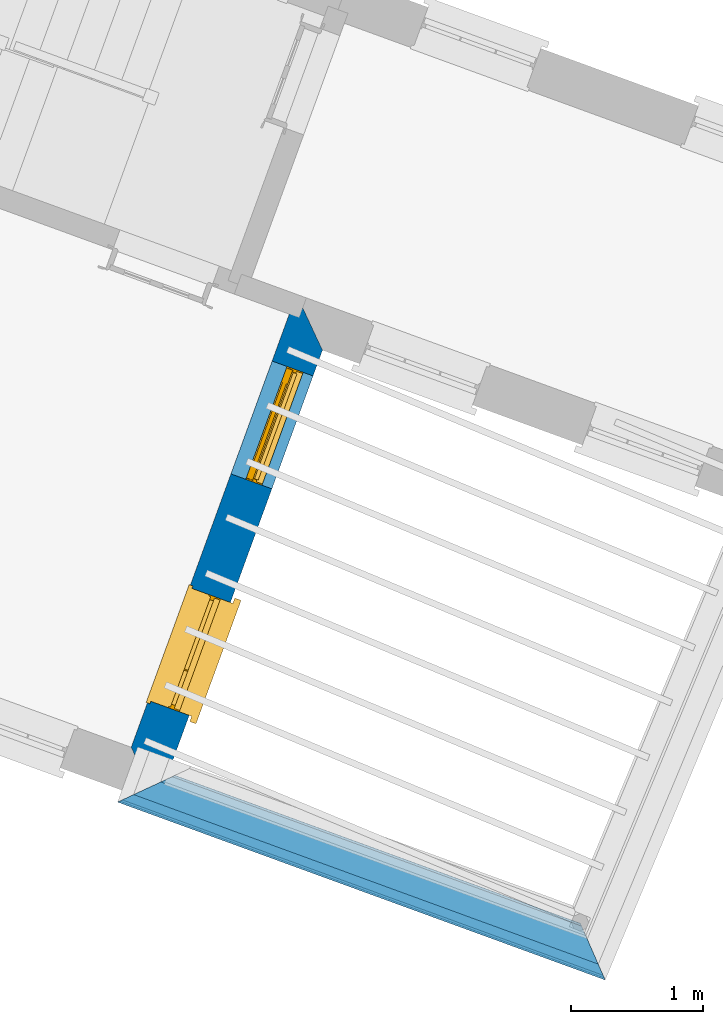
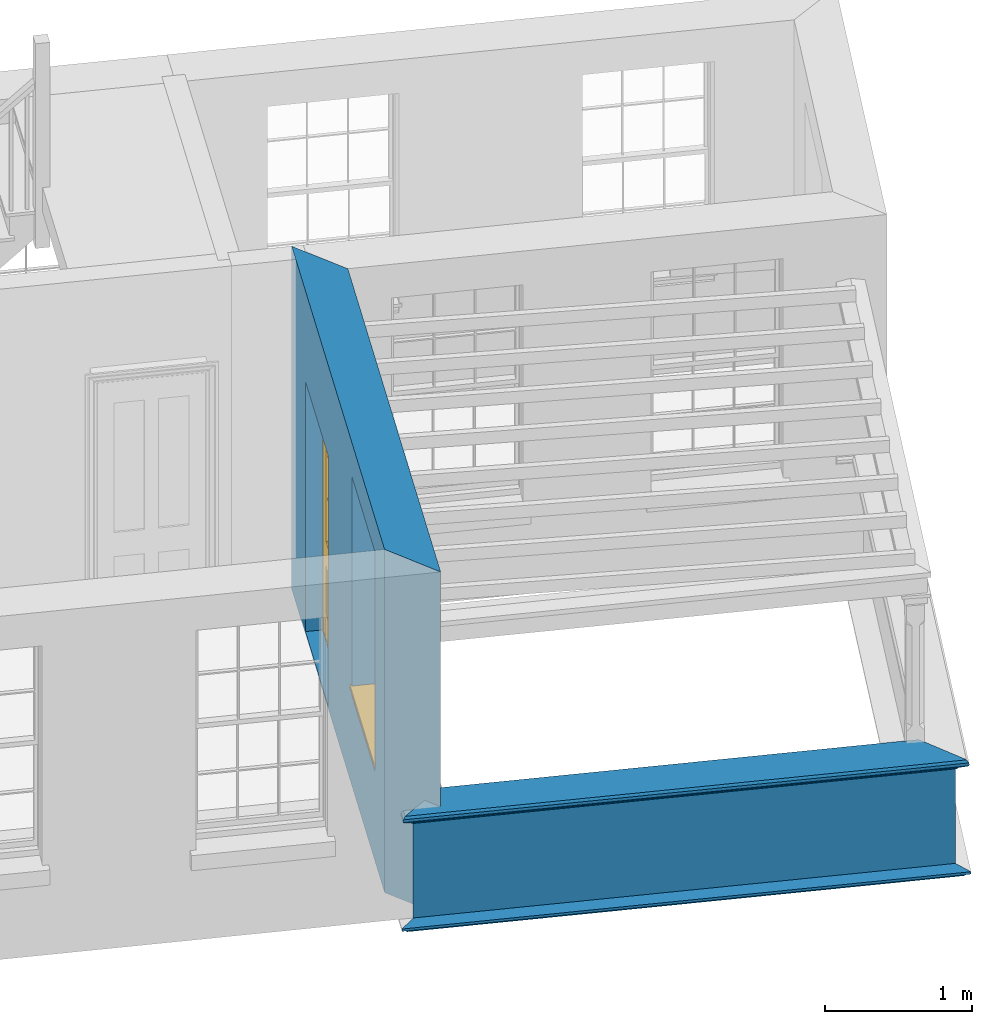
# One storey, part 2 of 7: 4 walls, 1 door, 1 window, 2 openings.
"""IFC4 building model written with IfcOpenShell, lengths in metres."""

import ifcopenshell
import ifcopenshell.guid

model = None  # the IFC model being written
_history = None  # IfcOwnerHistory: only IFC2X3 demands one
_inside = {}  # id of a spatial element -> (the spatial element, [elements in it])
_under = {}  # id of a project, library or spatial element -> (it, [spatial elements below it])
_declared = {}  # id of a project -> (the project, [libraries it declares])
_typed = {}  # id of a type object -> (the type object, [elements of that type])
_made_of = {}  # id of a material, layer set ... -> (it, [elements and type objects made of it])


def new_model(schema):
    """Start an empty IFC model of exactly this schema.

    Asked for "IFC4X3", IfcOpenShell would pick the latest addendum, in which some entities
    have other attributes; the version numbers below select the first issue.
    IFC2X3 requires an IfcOwnerHistory on every rooted entity: one is made here for all.
    """
    global model, _history
    if schema == "IFC4X3":
        model = ifcopenshell.file(schema_version=(4, 3, 0, 0))
    else:
        model = ifcopenshell.file(schema=schema)
    _inside.clear()
    _under.clear()
    _declared.clear()
    _typed.clear()
    _made_of.clear()
    _history = None
    if model.schema == "IFC2X3":
        org = make("IfcOrganization", Name="unknown")
        user = make(
            "IfcPersonAndOrganization",
            ThePerson=make("IfcPerson", FamilyName="unknown"),
            TheOrganization=org,
        )
        app = make(
            "IfcApplication",
            ApplicationDeveloper=org,
            Version="unknown",
            ApplicationFullName="unknown",
            ApplicationIdentifier="unknown",
        )
        _history = make(
            "IfcOwnerHistory",
            OwningUser=user,
            OwningApplication=app,
            ChangeAction="ADDED",
            CreationDate=0,
        )
    return model


def make(cls, **values):
    """One entity of the class cls with the attributes given. An attribute that is None is left unset."""
    return model.create_entity(
        cls, **{name: value for name, value in values.items() if value is not None}
    )


def rooted(cls, **values):
    """An entity with a GlobalId (a new one), such as an element, a storey or a relation."""
    return make(cls, GlobalId=ifcopenshell.guid.new(), OwnerHistory=_history, **values)


def si_unit(unit_type, name, prefix=None):
    """IfcSIUnit, for example si_unit("LENGTHUNIT", "METRE", prefix="MILLI")."""
    return make("IfcSIUnit", UnitType=unit_type, Prefix=prefix, Name=name)


def assignment(units):
    """IfcUnitAssignment: the units of a project."""
    return None if units is None else make("IfcUnitAssignment", Units=units)


def point(xyz):
    """IfcCartesianPoint."""
    return None if xyz is None else make("IfcCartesianPoint", Coordinates=xyz)


def direction(xyz):
    """IfcDirection."""
    return None if xyz is None else make("IfcDirection", DirectionRatios=xyz)


def frame(location, z_axis=None, x_axis=None):
    """IfcAxis2Placement3D, a coordinate frame: its origin and axes. An axis left out is left unset."""
    return make(
        "IfcAxis2Placement3D",
        Location=point(location),
        Axis=direction(z_axis),
        RefDirection=direction(x_axis),
    )


def origin():
    """The frame at (0, 0, 0) with its axes left unset."""
    return frame((0.0, 0.0, 0.0))


def origin_with_axes():
    """The frame at (0, 0, 0) with the z axis (0, 0, 1) and the x axis (1, 0, 0) written out."""
    return frame((0.0, 0.0, 0.0), z_axis=(0.0, 0.0, 1.0), x_axis=(1.0, 0.0, 0.0))


def place(relative_to, where):
    """IfcLocalPlacement: puts the frame where relative to a parent placement (None: the world)."""
    return make(
        "IfcLocalPlacement", PlacementRelTo=relative_to, RelativePlacement=where
    )


def context(
    kind, dimensions, precision=None, world=None, true_north=None, identifier=None
):
    """IfcGeometricRepresentationContext, for example the 3D "Model" context."""
    return make(
        "IfcGeometricRepresentationContext",
        ContextIdentifier=identifier,
        ContextType=kind,
        CoordinateSpaceDimension=dimensions,
        Precision=precision,
        WorldCoordinateSystem=world,
        TrueNorth=true_north,
    )


def subcontext(parent, identifier, kind, view, scale=None):
    """IfcGeometricRepresentationSubContext, for example "Body" below "Model"."""
    return make(
        "IfcGeometricRepresentationSubContext",
        ContextIdentifier=identifier,
        ContextType=kind,
        ParentContext=parent,
        TargetScale=scale,
        TargetView=view,
    )


def project(units=None, contexts=None):
    """IfcProject with its units and contexts."""
    return rooted(
        "IfcProject",
        Name="project",
        RepresentationContexts=contexts,
        UnitsInContext=assignment(units),
    )


def spatial(cls, under=None, at=None, **own):
    """A site, building, storey or space (cls), placed at a placement, below another one or the project."""
    s = rooted(cls, ObjectPlacement=at, **own)
    if under is not None:
        _under.setdefault(under.id(), (under, []))[1].append(s)
    return s


def polyline(points):
    """IfcPolyline through the points."""
    return make("IfcPolyline", Points=[point(p) for p in points])


def outline(outer, holes=None, kind="AREA"):
    """IfcArbitraryClosedProfileDef: a profile drawn as a closed curve; with holes, ...WithVoids."""
    if holes is None:
        return make("IfcArbitraryClosedProfileDef", ProfileType=kind, OuterCurve=outer)
    return make(
        "IfcArbitraryProfileDefWithVoids",
        ProfileType=kind,
        OuterCurve=outer,
        InnerCurves=holes,
    )


def extrude(swept, where, along, depth):
    """IfcExtrudedAreaSolid: the profile swept, set in the frame where, extruded along a direction by depth."""
    return make(
        "IfcExtrudedAreaSolid",
        SweptArea=swept,
        Position=where,
        ExtrudedDirection=direction(along),
        Depth=depth,
    )


def clip(a, b, op="DIFFERENCE"):
    """IfcBooleanClippingResult: the solid a cut by the half space b."""
    return make(
        "IfcBooleanClippingResult", Operator=op, FirstOperand=a, SecondOperand=b
    )


def halfspace(plane, agree):
    """IfcHalfSpaceSolid: all space on one side of the plane z = 0 of the frame plane."""
    return make(
        "IfcHalfSpaceSolid",
        BaseSurface=make("IfcPlane", Position=plane),
        AgreementFlag=agree,
    )


def faces_of(points, faces, orient=None, outer=None):
    """IfcFace entities. A face is a list of loops; a loop is a list of indices into points, from 0.

    orient and outer hold one flag for each loop. By default every Orientation is true, the
    first loop of a face is its IfcFaceOuterBound and the others are IfcFaceBound.
    """
    made = []
    for i, loops in enumerate(faces):
        bounds = []
        for j, loop in enumerate(loops):
            is_outer = j == 0 if outer is None else outer[i][j]
            bounds.append(
                make(
                    "IfcFaceOuterBound" if is_outer else "IfcFaceBound",
                    Bound=make("IfcPolyLoop", Polygon=[points[k] for k in loop]),
                    Orientation=True if orient is None else orient[i][j],
                )
            )
        made.append(make("IfcFace", Bounds=bounds))
    return made


def faceted_brep(points, faces, orient=None, outer=None, voids=None):
    """IfcFacetedBrep: a solid bounded by flat faces; with voids (closed shells), ...WithVoids."""
    shared = [point(p) for p in points]
    hull = make("IfcClosedShell", CfsFaces=faces_of(shared, faces, orient, outer))
    if voids is None:
        return make("IfcFacetedBrep", Outer=hull)
    return make(
        "IfcFacetedBrepWithVoids",
        Outer=hull,
        Voids=[
            make(cls, CfsFaces=faces_of(shared, fs, o, b)) for cls, fs, o, b in voids
        ],
    )


def shape(context_of_items, identifier, shape_type, items):
    """IfcShapeRepresentation: the items that make up one representation, for example the "Body"."""
    return make(
        "IfcShapeRepresentation",
        ContextOfItems=context_of_items,
        RepresentationIdentifier=identifier,
        RepresentationType=shape_type,
        Items=items,
    )


def source(mapping_origin, context_of_items, identifier, shape_type, items):
    """IfcRepresentationMap: a shape defined once, which mapped items show again and again."""
    return make(
        "IfcRepresentationMap",
        MappingOrigin=mapping_origin,
        MappedRepresentation=shape(context_of_items, identifier, shape_type, items),
    )


def transform(
    local_origin,
    x_axis=None,
    y_axis=None,
    z_axis=None,
    scale=None,
    scale2=None,
    scale3=None,
    uniform=True,
):
    """IfcCartesianTransformationOperator3D, or its non-uniform kind. x_axis, y_axis, z_axis: its Axis1, 2, 3."""
    if uniform:
        return make(
            "IfcCartesianTransformationOperator3D",
            Axis1=direction(x_axis),
            Axis2=direction(y_axis),
            LocalOrigin=point(local_origin),
            Scale=scale,
            Axis3=direction(z_axis),
        )
    return make(
        "IfcCartesianTransformationOperator3DnonUniform",
        Axis1=direction(x_axis),
        Axis2=direction(y_axis),
        LocalOrigin=point(local_origin),
        Scale=scale,
        Axis3=direction(z_axis),
        Scale2=scale2,
        Scale3=scale3,
    )


def mapped(mapping_source, mapping_target):
    """IfcMappedItem: shows the shape of a source again, moved by a transform."""
    return make(
        "IfcMappedItem", MappingSource=mapping_source, MappingTarget=mapping_target
    )


def material(Name=None, Category=None):
    """IfcMaterial."""
    return make("IfcMaterial", Name=Name, Category=Category)


def layer(
    of_material, thickness, ventilated=None, Name=None, Category=None, Priority=None
):
    """IfcMaterialLayer: one layer of a wall or slab, of a material (None: an air gap)."""
    return make(
        "IfcMaterialLayer",
        Material=of_material,
        LayerThickness=thickness,
        IsVentilated=ventilated,
        Name=Name,
        Category=Category,
        Priority=Priority,
    )


def layer_set(layers, Name=None):
    """IfcMaterialLayerSet."""
    return make("IfcMaterialLayerSet", MaterialLayers=layers, LayerSetName=Name)


def layer_usage(for_layer_set, set_direction, sense, offset, extent=None):
    """IfcMaterialLayerSetUsage: how a layer set lies in its element."""
    return make(
        "IfcMaterialLayerSetUsage",
        ForLayerSet=for_layer_set,
        LayerSetDirection=set_direction,
        DirectionSense=sense,
        OffsetFromReferenceLine=offset,
        ReferenceExtent=extent,
    )


def material_profile(
    of_material, cross_section, Name=None, Category=None, Priority=None
):
    """IfcMaterialProfile: a cross section and its material."""
    return make(
        "IfcMaterialProfile",
        Name=Name,
        Material=of_material,
        Profile=cross_section,
        Priority=Priority,
        Category=Category,
    )


def profile_set(profiles, Name=None, composite=None):
    """IfcMaterialProfileSet."""
    return make(
        "IfcMaterialProfileSet",
        Name=Name,
        MaterialProfiles=profiles,
        CompositeProfile=composite,
    )


def profile_usage(for_profile_set, cardinal=None, extent=None):
    """IfcMaterialProfileSetUsage: how a profile set lies along its element."""
    return make(
        "IfcMaterialProfileSetUsage",
        ForProfileSet=for_profile_set,
        CardinalPoint=cardinal,
        ReferenceExtent=extent,
    )


def made_of(thing, what):
    """Note that an element or type object is made of a material, layer set ...; save() writes the relation."""
    if what is not None:
        _made_of.setdefault(what.id(), (what, []))[1].append(thing)
    return thing


def type_object(cls, material=None, **own):
    """A type object (cls), such as IfcWallType, which elements share."""
    return made_of(rooted(cls, **own), material)


def type_shapes(of_type, sources):
    """Give a type object the sources (RepresentationMaps) that its elements show as mapped items."""
    of_type.RepresentationMaps = sources


def element(
    cls,
    number,
    at=None,
    inside=None,
    cuts=None,
    type_object=None,
    material=None,
    context=None,
    identifier="Body",
    shape_type=None,
    held_by="IfcProductDefinitionShape",
    body=None,
    shapes=None,
    **own,
):
    """One element of the class cls, such as IfcWall. Its Tag is "e" and its number.

    at: its placement. inside: the storey or other place that contains it. cuts: it is an
    opening in that element (IfcRelVoidsElement). A single representation is given by context,
    identifier, shape_type and body (its items); several are given by shapes. held_by: the class
    of the entity that holds the representations. save() writes the other relations.
    """
    e = rooted(cls, Tag="e%d" % number, ObjectPlacement=at, **own)
    if body is not None:
        shapes = [shape(context, identifier, shape_type, body)]
    if shapes is not None:
        e.Representation = make(held_by, Representations=shapes)
    if inside is not None:
        _inside.setdefault(inside.id(), (inside, []))[1].append(e)
    if cuts is not None:
        rooted(
            "IfcRelVoidsElement", RelatingBuildingElement=cuts, RelatedOpeningElement=e
        )
    if type_object is not None:
        _typed.setdefault(type_object.id(), (type_object, []))[1].append(e)
    return made_of(e, material)


def fill(opening, filler):
    """IfcRelFillsElement: the door or window that sits in an opening."""
    return rooted(
        "IfcRelFillsElement",
        RelatingOpeningElement=opening,
        RelatedBuildingElement=filler,
    )


def aggregate(whole, parts):
    """IfcRelAggregates: a whole, such as a stair, and the parts it consists of."""
    return rooted("IfcRelAggregates", RelatingObject=whole, RelatedObjects=parts)


def save(model, path):
    """Write the relations noted so far, then the file.

    IfcRelAggregates (storeys below a building ...), IfcRelContainedInSpatialStructure (elements
    in a storey), IfcRelDefinesByType, IfcRelAssociatesMaterial and IfcRelDeclares: one each for
    every whole, place, type object, material and project.
    """
    for whole, parts in _under.values():
        aggregate(whole, parts)
    for where, things in _inside.values():
        rooted(
            "IfcRelContainedInSpatialStructure",
            RelatedElements=things,
            RelatingStructure=where,
        )
    for kind, things in _typed.values():
        rooted("IfcRelDefinesByType", RelatedObjects=things, RelatingType=kind)
    for what, things in _made_of.values():
        rooted("IfcRelAssociatesMaterial", RelatedObjects=things, RelatingMaterial=what)
    for by, libraries in _declared.values():
        rooted("IfcRelDeclares", RelatingContext=by, RelatedDefinitions=libraries)
    model.write(path)


model = new_model("IFC4")

# Units and contexts
model_context = context("Model", 3, world=origin_with_axes())
body_context = subcontext(model_context, "Body", "Model", "MODEL_VIEW")
ifc_project = project(units=[si_unit("PLANEANGLEUNIT", "RADIAN"), si_unit("MASSUNIT", "GRAM", prefix="KILO"), si_unit("FORCEUNIT", "NEWTON", prefix="KILO"), si_unit("LENGTHUNIT", "METRE"), si_unit("AREAUNIT", "SQUARE_METRE"), si_unit("VOLUMEUNIT", "CUBIC_METRE")], contexts=[model_context, model_context])

# Sites, building, storey
site_1_placement = place(None, origin_with_axes())
site_1 = spatial("IfcSite", under=ifc_project, at=site_1_placement, Name="Tamar")
site_2_placement = place(site_1_placement, origin_with_axes())
site_2 = spatial("IfcSite", under=site_1, at=site_2_placement, Name="Site plot-13", CompositionType="ELEMENT")
building_placement = place(None, origin_with_axes())
building = spatial("IfcBuilding", under=site_2, at=building_placement, Name="Building plot-13", CompositionType="ELEMENT")
storey_placement = place(None, frame((0.0, 0.0, 29.0), z_axis=(0.0, 0.0, 1.0), x_axis=(1.0, 0.0, 0.0)))
storey = spatial("IfcBuildingStorey", under=building, at=storey_placement, Name="plot-13 1", CompositionType="ELEMENT", Elevation=29.0)

# Wall, openings, door, window
ifc_material = material(Name="Masonry")
ifc_layer = layer(ifc_material, 0.33, ventilated=False)
ifc_layer_set = layer_set([ifc_layer], Name="exterior_0.08_0.25")
ifc_layer_usage = layer_usage(ifc_layer_set, "AXIS2", "POSITIVE", -0.25)
wall_type_1 = type_object("IfcWallType", Name="exterior_0.08_0.25", PredefinedType="SOLIDWALL", material=ifc_layer_set)
wall_1_placement = place(storey_placement, frame((244.988438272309, 297.311674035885, 0.0), z_axis=(0.0, 0.0, 1.0), x_axis=(0.342734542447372, 0.939432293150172, 0.0)))
wall_1 = element("IfcWall", 1, at=wall_1_placement, inside=storey, type_object=wall_type_1, material=ifc_layer_usage, Name="exterior", context=body_context, shape_type="SweptSolid", body=[
    extrude(outline(polyline([(0.0800000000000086, 0.0799999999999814), (-0.249999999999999, -0.249999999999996), (3.40149980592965, -0.249999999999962), (3.73149980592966, 0.0800000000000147), (0.0800000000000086, 0.0799999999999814)])), origin_with_axes(), (0.0, 0.0, 1.0), 2.85),
])
opening_1_placement = place(wall_1_placement, frame((0.457874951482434, 0.0, 0.75)))
opening_1 = element("IfcOpeningElement", 2, at=opening_1_placement, cuts=wall_1, Name="My Opening", ObjectType="Opening", context=body_context, shape_type="SweptSolid", body=[
    extrude(outline(polyline([(0.0, -0.269999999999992), (0.909999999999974, -0.269999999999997), (0.909999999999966, 1.09999999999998), (-7.7715611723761e-15, 1.09999999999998), (0.0, -0.269999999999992)])), origin_with_axes(), (0.0, 0.0, 1.0), 1.82),
])
opening_2_placement = place(wall_1_placement, frame((2.28362485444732, 0.0, 0.0199999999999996)))
opening_2 = element("IfcOpeningElement", 3, at=opening_2_placement, cuts=wall_1, Name="My Opening", ObjectType="Opening", context=body_context, shape_type="SweptSolid", body=[
    extrude(outline(polyline([(0.0, -0.269999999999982), (0.909999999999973, -0.269999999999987), (0.909999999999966, 1.09999999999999), (-7.99360577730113e-15, 1.09999999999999), (0.0, -0.269999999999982)])), origin_with_axes(), (0.0, 0.0, 1.0), 2.08),
])
door_type = type_object("IfcDoorType", Name="door_panelled", OperationType="SINGLE_SWING_LEFT", PredefinedType="NOTDEFINED")
shared_shape_1 = source(origin(), body_context, "Body", "Brep", [
    faceted_brep([(0.545, 0.195, 0.265), (0.745, 0.195, 0.265), (0.745, 0.2, 0.265), (0.545, 0.2, 0.265), (0.745, 0.2, 0.58), (0.545, 0.2, 0.58), (0.545, 0.195, 0.58), (0.515, 0.19, 0.235), (0.775, 0.19, 0.235), (0.745, 0.195, 0.58), (0.515, 0.19, 0.61), (0.515, 0.185, 0.235), (0.775, 0.185, 0.235), (0.775, 0.19, 0.61), (0.515, 0.185, 0.61), (0.785, 0.185, 0.225), (0.505, 0.185, 0.225), (0.775, 0.185, 0.61), (0.505, 0.185, 0.62), (0.785, 0.185, 0.62), (0.505, 0.18, 0.225), (0.785, 0.18, 0.225), (0.505, 0.18, 0.62), (0.785, 0.18, 0.62), (0.883, 0.18, 0.075), (0.898, 0.18, 0.075), (0.405, 0.18, 0.62), (0.405, 0.18, 0.225), (0.027, 0.18, 0.075), (0.785, 0.18, 0.82), (0.125, 0.18, 0.82), (0.405, 0.185, 0.62), (0.405, 0.185, 0.225), (0.898, 0.18, 2.068), (0.027, 0.17, 0.075), (0.883, 0.17, 0.075), (0.125, 0.18, 0.225), (0.012, 0.18, 0.075), (0.785, 0.19, 0.82), (0.125, 0.19, 0.82), (0.125, 0.18, 0.62), (0.125, 0.185, 0.62), (0.395, 0.185, 0.61), (0.395, 0.185, 0.235), (0.125, 0.185, 0.225), (0.785, 0.18, 1.895), (0.027, 0.14, 0.045), (0.883, 0.14, 0.045), (0.558333, 0.19, 0.83), (0.351667, 0.19, 0.83), (0.125, 0.18, 1.895), (0.125, 0.19, 1.895), (0.785, 0.19, 1.895), (0.012, 0.18, 2.068), (0.135, 0.185, 0.61), (0.395, 0.19, 0.61), (0.395, 0.19, 0.235), (0.135, 0.185, 0.235), (0.027, 0.14, 0.027), (0.883, 0.14, 0.027), (0.568333, 0.19, 0.83), (0.558333, 0.22, 0.83), (0.351667, 0.22, 0.83), (0.341667, 0.19, 0.83), (0.135, 0.19, 1.185), (0.135, 0.19, 1.53), (0.775, 0.19, 1.53), (0.775, 0.19, 1.185), (0.135, 0.19, 0.61), (0.365, 0.195, 0.58), (0.365, 0.195, 0.265), (0.135, 0.19, 0.235), (0.568333, 0.19, 1.175), (0.558333, 0.19, 1.175), (0.775, 0.19, 0.83), (0.558333, 0.22, 1.175), (0.785, 0.22, 0.82), (0.125, 0.22, 0.82), (0.351667, 0.22, 1.175), (0.351667, 0.19, 1.175), (0.341667, 0.19, 1.175), (0.135, 0.19, 0.83), (0.135, 0.19, 1.175), (0.135, 0.22, 1.185), (0.135, 0.22, 1.53), (0.135, 0.19, 1.54), (0.351667, 0.19, 1.885), (0.558333, 0.19, 1.885), (0.775, 0.22, 1.53), (0.775, 0.22, 1.185), (0.775, 0.19, 1.175), (0.775, 0.19, 1.54), (0.165, 0.195, 0.58), (0.365, 0.2, 0.58), (0.365, 0.2, 0.265), (0.165, 0.195, 0.265), (0.568333, 0.22, 0.83), (0.568333, 0.22, 1.175), (0.568333, 0.19, 1.185), (0.558333, 0.19, 1.185), (0.775, 0.22, 0.83), (0.785, 0.23, 0.82), (0.125, 0.23, 0.82), (0.341667, 0.22, 0.83), (0.341667, 0.22, 1.175), (0.351667, 0.19, 1.185), (0.341667, 0.19, 1.185), (0.135, 0.22, 0.83), (0.341667, 0.22, 1.185), (0.125, 0.22, 1.895), (0.341667, 0.22, 1.53), (0.341667, 0.19, 1.53), (0.135, 0.19, 1.885), (0.341667, 0.19, 1.54), (0.341667, 0.19, 1.885), (0.558333, 0.22, 1.885), (0.351667, 0.22, 1.885), (0.568333, 0.19, 1.885), (0.785, 0.22, 1.895), (0.568333, 0.22, 1.185), (0.568333, 0.19, 1.53), (0.568333, 0.22, 1.53), (0.568333, 0.19, 1.54), (0.775, 0.19, 1.885), (0.165, 0.2, 0.58), (0.165, 0.2, 0.265), (0.775, 0.22, 1.175), (0.558333, 0.19, 1.53), (0.351667, 0.22, 1.185), (0.558333, 0.22, 1.185), (0.505, 0.23, 0.62), (0.405, 0.23, 0.62), (0.125, 0.23, 1.895), (0.785, 0.23, 1.895), (0.351667, 0.19, 1.53), (0.135, 0.22, 1.175), (0.135, 0.22, 1.54), (0.341667, 0.22, 1.54), (0.135, 0.22, 1.885), (0.351667, 0.19, 1.54), (0.558333, 0.22, 1.54), (0.558333, 0.19, 1.54), (0.351667, 0.22, 1.54), (0.775, 0.22, 1.54), (0.568333, 0.22, 1.54), (0.775, 0.22, 1.885), (0.558333, 0.22, 1.53), (0.405, 0.23, 0.225), (0.505, 0.23, 0.225), (0.125, 0.23, 0.62), (0.785, 0.23, 0.62), (0.012, 0.23, 2.068), (0.898, 0.23, 2.068), (0.351667, 0.22, 1.53), (0.341667, 0.22, 1.885), (0.568333, 0.22, 1.885), (0.405, 0.225, 0.225), (0.405, 0.225, 0.62), (0.505, 0.225, 0.62), (0.505, 0.225, 0.225), (0.898, 0.23, 0.027), (0.012, 0.23, 0.027), (0.125, 0.225, 0.62), (0.785, 0.225, 0.62), (0.395, 0.225, 0.235), (0.395, 0.225, 0.61), (0.125, 0.23, 0.225), (0.125, 0.225, 0.225), (0.515, 0.225, 0.61), (0.515, 0.225, 0.235), (0.785, 0.23, 0.225), (0.785, 0.225, 0.225), (0.135, 0.225, 0.61), (0.775, 0.225, 0.61), (0.135, 0.225, 0.235), (0.395, 0.22, 0.235), (0.395, 0.22, 0.61), (0.515, 0.22, 0.61), (0.515, 0.22, 0.235), (0.775, 0.225, 0.235), (0.135, 0.22, 0.61), (0.775, 0.22, 0.61), (0.135, 0.22, 0.235), (0.365, 0.215, 0.265), (0.365, 0.215, 0.58), (0.545, 0.215, 0.58), (0.545, 0.215, 0.265), (0.775, 0.22, 0.235), (0.165, 0.215, 0.58), (0.745, 0.215, 0.58), (0.165, 0.215, 0.265), (0.365, 0.21, 0.58), (0.365, 0.21, 0.265), (0.545, 0.21, 0.58), (0.545, 0.21, 0.265), (0.745, 0.215, 0.265), (0.165, 0.21, 0.58), (0.745, 0.21, 0.58), (0.165, 0.21, 0.265), (0.745, 0.21, 0.265), (0.885, 0.178, 0.025), (0.025, 0.178, 0.025), (0.025, 0.15, 0.025), (0.885, 0.15, 0.025), (0.9, 0.23, 0.025), (0.01, 0.23, 0.025), (0.9, 0.178, 0.025), (0.91, 0.23, 0.0), (0.0, 0.23, 0.0), (0.01, 0.178, 0.025), (0.9, 0.178, 2.07), (0.9, 0.23, 2.07), (0.885, 0.178, 2.055), (0.91, 0.23, 2.08), (0.01, 0.23, 2.07), (0.0, 0.23, 2.08), (0.01, 0.178, 2.07), (0.025, 0.178, 2.055), (0.0, 0.1, 2.08), (0.91, 0.1, 2.08), (0.01, 0.1, 2.07), (0.9, 0.1, 2.07), (0.01, 0.15, 2.07), (0.9, 0.15, 2.07), (0.0, 0.1, 0.0), (0.91, 0.1, 0.0), (0.01, 0.1, 0.025), (0.9, 0.1, 0.025), (0.01, 0.15, 0.025), (0.025, 0.15, 2.055), (0.9, 0.15, 0.025), (0.885, 0.15, 2.055), (0.898, 0.18, 0.027), (0.012, 0.18, 0.027), (0.883, 0.18, 0.027), (0.027, 0.18, 0.027)], [[[0, 1, 2, 3]], [[2, 4, 5, 3]], [[0, 3, 5, 6]], [[1, 0, 7, 8]], [[9, 4, 2, 1]], [[9, 6, 5, 4]], [[0, 6, 10, 7]], [[8, 7, 11, 12]], [[8, 13, 9, 1]], [[13, 10, 6, 9]], [[7, 10, 14, 11]], [[15, 12, 11, 16]], [[12, 17, 13, 8]], [[17, 14, 10, 13]], [[18, 16, 11, 14]], [[15, 19, 17, 12]], [[15, 16, 20, 21]], [[14, 17, 19, 18]], [[16, 18, 22, 20]], [[21, 23, 19, 15]], [[24, 25, 21, 20]], [[23, 22, 18, 19]], [[20, 22, 26, 27]], [[23, 21, 25]], [[28, 24, 20, 27]], [[22, 23, 29]], [[29, 30, 26, 22]], [[27, 26, 31, 32]], [[23, 25, 33, 29]], [[34, 35, 24, 28]], [[28, 27, 36, 37]], [[38, 39, 30, 29]], [[26, 30, 40]], [[26, 40, 41, 31]], [[42, 43, 32, 31]], [[32, 44, 36, 27]], [[33, 45, 29]], [[46, 47, 35, 34]], [[36, 40, 37]], [[39, 38, 48, 49]], [[50, 30, 39, 51]], [[29, 45, 52, 38]], [[53, 37, 40, 30]], [[44, 41, 40, 36]], [[31, 41, 54, 42]], [[43, 42, 55, 56]], [[57, 44, 32, 43]], [[50, 45, 33, 53]], [[47, 46, 58, 59]], [[60, 48, 38]], [[49, 48, 61, 62]], [[49, 63, 39]], [[50, 53, 30]], [[51, 39, 64, 65]], [[45, 50, 51, 52]], [[66, 67, 38, 52]], [[57, 54, 41, 44]], [[42, 54, 68, 55]], [[56, 55, 69, 70]], [[56, 71, 57, 43]], [[60, 72, 73, 48]], [[60, 38, 74]], [[48, 73, 75, 61]], [[76, 77, 62, 61]], [[62, 78, 79, 49]], [[49, 79, 80, 63]], [[63, 81, 39]], [[82, 64, 39]], [[65, 64, 83, 84]], [[85, 51, 65]], [[52, 51, 86, 87]], [[88, 89, 67, 66]], [[90, 38, 67]], [[91, 66, 52]], [[71, 68, 54, 57]], [[55, 68, 92, 69]], [[69, 93, 94, 70]], [[70, 95, 71, 56]], [[96, 97, 72, 60]], [[73, 72, 98, 99]], [[74, 38, 90]], [[100, 96, 60, 74]], [[75, 73, 79, 78]], [[61, 75, 97, 96]], [[101, 102, 77, 76]], [[77, 103, 62]], [[96, 76, 61]], [[103, 104, 78, 62]], [[80, 79, 105, 106]], [[63, 80, 104, 103]], [[81, 63, 103, 107]], [[81, 82, 39]], [[106, 64, 82, 80]], [[106, 108, 83, 64]], [[84, 83, 77, 109]], [[110, 111, 65, 84]], [[112, 51, 85]], [[113, 85, 65, 111]], [[114, 86, 51]], [[115, 87, 86, 116]], [[117, 52, 87]], [[118, 76, 89, 88]], [[119, 98, 67, 89]], [[120, 121, 88, 66]], [[67, 98, 72, 90]], [[91, 122, 120, 66]], [[91, 52, 123]], [[95, 92, 68, 71]], [[69, 92, 124, 93]], [[94, 93, 124, 125]], [[94, 125, 95, 70]], [[72, 97, 126, 90]], [[127, 99, 98, 120]], [[99, 105, 79, 73]], [[74, 90, 126, 100]], [[96, 100, 76]], [[128, 129, 75, 78]], [[97, 75, 129, 119]], [[130, 131, 102, 101]], [[109, 77, 102, 132]], [[133, 101, 76, 118]], [[77, 107, 103]], [[78, 104, 108, 128]], [[111, 106, 105, 134]], [[104, 80, 82, 135]], [[107, 135, 82, 81]], [[110, 108, 106, 111]], [[104, 135, 83, 108]], [[83, 135, 77]], [[136, 84, 109]], [[110, 84, 136, 137]], [[114, 51, 112]], [[85, 136, 138, 112]], [[113, 137, 136, 85]], [[111, 134, 139, 113]], [[86, 114, 113, 139]], [[140, 141, 87, 115]], [[139, 142, 116, 86]], [[109, 118, 115, 116]], [[117, 123, 52]], [[117, 87, 141, 122]], [[126, 89, 76]], [[143, 118, 88]], [[120, 98, 119, 121]], [[119, 89, 126, 97]], [[144, 143, 88, 121]], [[144, 122, 91, 143]], [[127, 120, 122, 141]], [[143, 91, 123, 145]], [[124, 92, 95, 125]], [[146, 129, 99, 127]], [[99, 129, 128, 105]], [[100, 126, 76]], [[121, 119, 129, 146]], [[147, 131, 130, 148]], [[131, 149, 102]], [[130, 101, 150]], [[102, 151, 132]], [[118, 109, 132, 133]], [[101, 133, 152]], [[107, 77, 135]], [[153, 128, 108, 110]], [[134, 105, 128, 153]], [[109, 138, 136]], [[153, 110, 137, 142]], [[154, 114, 112, 138]], [[137, 113, 114, 154]], [[141, 139, 134, 127]], [[141, 140, 142, 139]], [[144, 140, 115, 155]], [[142, 137, 154, 116]], [[155, 115, 118]], [[116, 154, 109]], [[117, 155, 145, 123]], [[122, 144, 155, 117]], [[143, 145, 118]], [[121, 146, 140, 144]], [[146, 127, 134, 153]], [[156, 157, 131, 147]], [[148, 130, 158, 159]], [[148, 160, 161, 147]], [[157, 162, 149, 131]], [[161, 151, 102, 149]], [[101, 152, 160, 150]], [[163, 158, 130, 150]], [[151, 152, 133, 132]], [[154, 138, 109]], [[142, 140, 146, 153]], [[145, 155, 118]], [[157, 156, 164, 165]], [[147, 166, 167, 156]], [[168, 169, 159, 158]], [[170, 148, 159, 171]], [[148, 170, 160]], [[166, 147, 161]], [[172, 162, 157, 165]], [[166, 149, 162, 167]], [[166, 161, 149]], [[150, 160, 170]], [[163, 173, 168, 158]], [[171, 163, 150, 170]], [[174, 164, 156, 167]], [[175, 176, 165, 164]], [[169, 168, 177, 178]], [[171, 159, 169, 179]], [[167, 162, 172, 174]], [[176, 180, 172, 165]], [[179, 173, 163, 171]], [[181, 177, 168, 173]], [[164, 174, 182, 175]], [[183, 184, 176, 175]], [[178, 177, 185, 186]], [[179, 169, 178, 187]], [[174, 172, 180, 182]], [[184, 188, 180, 176]], [[187, 181, 173, 179]], [[189, 185, 177, 181]], [[175, 182, 190, 183]], [[191, 184, 183, 192]], [[185, 193, 194, 186]], [[187, 178, 186, 195]], [[182, 180, 188, 190]], [[191, 196, 188, 184]], [[195, 189, 181, 187]], [[197, 193, 185, 189]], [[183, 190, 198, 192]], [[198, 196, 191, 192]], [[194, 193, 197, 199]], [[195, 186, 194, 199]], [[188, 196, 198, 190]], [[197, 189, 195, 199]], [[200, 201, 202, 203]], [[201, 200, 204, 205]], [[206, 204, 200]], [[204, 207, 208, 205]], [[209, 201, 205]], [[210, 211, 204, 206]], [[206, 200, 212, 210]], [[211, 213, 207, 204]], [[214, 205, 208, 215]], [[216, 217, 201, 209]], [[205, 214, 216, 209]], [[216, 214, 211, 210]], [[210, 212, 217, 216]], [[214, 215, 213, 211]], [[218, 219, 213, 215]], [[219, 218, 220, 221]], [[221, 220, 222, 223]], [[215, 208, 224, 218]], [[225, 224, 208, 207]], [[224, 226, 220, 218]], [[224, 225, 227, 226]], [[219, 225, 207, 213]], [[228, 222, 220, 226]], [[219, 221, 227, 225]], [[226, 227, 203, 202]], [[202, 229, 222, 228]], [[228, 226, 202]], [[227, 221, 223, 230]], [[230, 203, 227]], [[217, 229, 202, 201]], [[231, 223, 222, 229]], [[230, 223, 231, 203]], [[231, 229, 217, 212]], [[212, 200, 203, 231]], [[33, 152, 151, 53]], [[25, 160, 152, 33]], [[161, 37, 53, 151]], [[232, 160, 25]], [[161, 233, 37]], [[160, 232, 234]], [[24, 234, 232, 25]], [[233, 161, 235]], [[37, 233, 235, 28]], [[161, 160, 234, 235]], [[35, 47, 234, 24]], [[28, 235, 46, 34]], [[58, 235, 234, 59]], [[59, 234, 47]], [[58, 46, 235]]]),
])
type_shapes(door_type, [shared_shape_1])
door_placement = place(storey_placement, frame((246.02476211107, 299.364446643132, 0.0199999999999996), z_axis=(0.0, 0.0, 1.0), x_axis=(0.311888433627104, 0.85488338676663, 0.0)))
door = element("IfcDoor", 4, at=door_placement, inside=storey, type_object=door_type, Name="bedroom outside door", OverallHeight=2.08, OverallWidth=0.91, context=body_context, shape_type="MappedRepresentation", body=[
    mapped(shared_shape_1, transform((0.0, 0.0, 0.0), scale=1.0)),
])
fill(opening_2, door)
window_type = type_object("IfcWindowType", Name="sash_big", PartitioningType="DOUBLE_PANEL_HORIZONTAL", PredefinedType="NOTDEFINED")
shared_shape_2 = source(origin(), body_context, "Body", "Brep", [
    faceted_brep([(0.033125, 0.145, 0.975209), (0.01, 0.145, 0.975209), (0.033125, 0.145, 1.376042), (0.876875, 0.145, 0.975209), (0.876875, 0.145, 1.376042), (0.9, 0.145, 0.975209), (0.876875, 0.145, 1.386042), (0.876875, 0.145, 1.786875), (0.9, 0.145, 1.81), (0.033125, 0.145, 1.786875), (0.033125, 0.145, 1.386042), (0.01, 0.145, 1.81), (0.876875, 0.115, 1.376042), (0.876875, 0.115, 0.975209), (0.9, 0.115, 0.937083), (0.033125, 0.115, 1.786875), (0.01, 0.115, 1.81), (0.033125, 0.115, 1.386042), (0.01, 0.115, 0.937083), (0.033125, 0.115, 0.975209), (0.033125, 0.115, 1.376042), (0.876875, 0.115, 1.786875), (0.876875, 0.115, 1.386042), (0.9, 0.115, 1.81), (0.033125, 0.145, 0.937083), (0.01, 0.145, 0.937083), (0.033125, 0.145, 0.53625), (0.876875, 0.145, 0.937083), (0.876875, 0.145, 0.53625), (0.9, 0.145, 0.937083), (0.876875, 0.145, 0.52625), (0.876875, 0.145, 0.125417), (0.9, 0.145, 0.077167), (0.033125, 0.145, 0.125417), (0.033125, 0.145, 0.52625), (0.01, 0.145, 0.077167), (-0.0425, 0.0, 0.01), (-0.0425, -0.05, 0.001667), (0.0, 0.0, 0.01), (0.9525, 0.0, 0.01), (0.91, 0.0, 0.01), (0.9525, -0.05, 0.001667), (-0.02, 0.33, 0.077167), (0.0, 0.33, 0.077167), (-0.02, 0.36, 0.077167), (0.0, 0.19, 0.077167), (0.01, 0.19, 0.077167), (0.91, 0.19, 0.077167), (0.91, 0.33, 0.077167), (0.9, 0.19, 0.077167), (0.93, 0.33, 0.077167), (0.93, 0.36, 0.077167), (0.01, 0.175, 0.975209), (0.9, 0.175, 0.975209), (0.876875, 0.175, 0.125417), (0.876875, 0.175, 0.52625), (0.9, 0.175, 0.077167), (0.876875, 0.175, 0.53625), (0.876875, 0.175, 0.937083), (0.033125, 0.175, 0.125417), (0.01, 0.175, 0.077167), (0.033125, 0.175, 0.52625), (0.033125, 0.175, 0.937083), (0.033125, 0.175, 0.53625), (-0.02, 0.33, 0.052167), (-0.02, 0.36, 0.052167), (0.93, 0.36, 0.052167), (0.93, 0.33, 0.052167), (0.91, 0.33, 0.052167), (0.0, 0.33, 0.052167), (0.91, 0.1, 0.026667), (0.0, 0.1, 0.026667), (-0.0425, -0.05, -0.123333), (0.9525, -0.05, -0.123333), (-0.0425, 0.0, -0.123333), (0.9525, 0.0, -0.123333), (0.01, 0.19, 1.81), (0.9, 0.19, 1.81), (0.0, 0.19, 1.82), (0.91, 0.19, 1.82), (0.01, 0.1, 0.077167), (0.9, 0.1, 0.077167), (0.592292, 0.145, 0.125417), (0.592292, 0.175, 0.125417), (0.317708, 0.175, 0.125417), (0.317708, 0.145, 0.125417), (0.592292, 0.145, 0.53625), (0.317708, 0.145, 0.53625), (0.317708, 0.145, 0.52625), (0.592292, 0.145, 0.52625), (0.592292, 0.175, 0.53625), (0.317708, 0.175, 0.53625), (0.592292, 0.115, 1.386042), (0.592292, 0.145, 1.386042), (0.317708, 0.145, 1.386042), (0.317708, 0.115, 1.386042), (0.317708, 0.115, 1.376042), (0.592292, 0.115, 1.376042), (0.317708, 0.145, 1.376042), (0.592292, 0.145, 1.376042), (0.602292, 0.115, 1.376042), (0.592292, 0.115, 0.975209), (0.602292, 0.115, 0.975209), (0.602292, 0.145, 0.975209), (0.592292, 0.145, 0.975209), (0.602292, 0.145, 1.376042), (0.602292, 0.175, 0.53625), (0.602292, 0.145, 0.53625), (0.317708, 0.175, 0.52625), (0.307708, 0.175, 0.125417), (0.307708, 0.175, 0.52625), (0.602292, 0.175, 0.52625), (0.602292, 0.175, 0.125417), (0.592292, 0.175, 0.52625), (0.307708, 0.175, 0.53625), (0.317708, 0.175, 0.937083), (0.307708, 0.175, 0.937083), (0.602292, 0.175, 0.937083), (0.592292, 0.175, 0.937083), (0.307708, 0.145, 0.52625), (0.307708, 0.145, 0.125417), (0.307708, 0.145, 0.53625), (0.307708, 0.145, 0.937083), (0.592292, 0.145, 0.937083), (0.317708, 0.145, 0.937083), (0.602292, 0.145, 0.937083), (0.602292, 0.145, 0.52625), (0.602292, 0.145, 0.125417), (0.307708, 0.115, 1.386042), (0.307708, 0.115, 1.376042), (0.307708, 0.115, 0.975209), (0.317708, 0.115, 0.975209), (0.317708, 0.115, 1.786875), (0.307708, 0.115, 1.786875), (0.602292, 0.115, 1.786875), (0.592292, 0.115, 1.786875), (0.602292, 0.115, 1.386042), (0.602292, 0.145, 1.386042), (0.307708, 0.145, 1.386042), (0.307708, 0.145, 1.786875), (0.317708, 0.145, 1.786875), (0.592292, 0.145, 1.786875), (0.602292, 0.145, 1.786875), (0.307708, 0.145, 1.376042), (0.317708, 0.145, 0.975209), (0.307708, 0.145, 0.975209), (0.91, 0.1, 1.82), (0.9, 0.1, 1.81), (0.01, 0.1, 1.81), (0.0, 0.1, 1.82), (0.91, 0.0, 0.0), (0.0, 0.0, 0.0), (0.91, 0.33, 0.0), (0.0, 0.33, 0.0)], [[[0, 1, 2]], [[3, 4, 5]], [[6, 7, 8]], [[9, 10, 11]], [[12, 13, 14]], [[15, 16, 17]], [[18, 19, 20]], [[21, 22, 23]], [[24, 25, 26]], [[27, 28, 29]], [[30, 31, 32]], [[33, 34, 35]], [[14, 27, 29]], [[25, 24, 18]], [[36, 37, 38]], [[39, 40, 41]], [[42, 43, 44]], [[45, 46, 43]], [[47, 48, 49]], [[50, 51, 48]], [[1, 0, 52]], [[5, 53, 3]], [[54, 55, 56]], [[57, 58, 53]], [[59, 60, 61]], [[62, 63, 52]], [[48, 43, 46, 49]], [[51, 44, 43, 48]], [[64, 42, 44, 65]], [[65, 44, 51, 66]], [[66, 51, 50, 67]], [[65, 66, 68, 69]], [[60, 56, 49, 46]], [[70, 71, 38, 40]], [[37, 41, 40, 38]], [[37, 72, 73, 41]], [[74, 75, 73, 72]], [[8, 11, 76, 77]], [[76, 78, 79, 77]], [[32, 35, 80, 81]], [[81, 80, 71, 70]], [[82, 83, 84, 85]], [[86, 87, 88, 89]], [[86, 90, 91, 87]], [[92, 93, 94, 95]], [[92, 95, 96, 97]], [[96, 98, 99, 97]], [[100, 97, 101, 102]], [[103, 104, 99, 105]], [[97, 99, 104, 101]], [[102, 103, 105, 100]], [[28, 57, 106, 107]], [[108, 84, 109, 110]], [[111, 112, 83, 113]], [[114, 110, 61, 63]], [[90, 113, 108, 91]], [[115, 91, 114, 116]], [[117, 106, 90, 118]], [[111, 106, 57, 55]], [[119, 110, 109, 120]], [[34, 61, 110, 119]], [[89, 113, 83, 82]], [[88, 108, 113, 89]], [[85, 84, 108, 88]], [[121, 114, 63, 26]], [[122, 116, 114, 121]], [[123, 118, 90, 86]], [[87, 91, 115, 124]], [[107, 106, 117, 125]], [[126, 111, 55, 30]], [[127, 112, 111, 126]], [[126, 30, 28, 107]], [[88, 119, 120, 85]], [[126, 89, 82, 127]], [[125, 123, 86, 107]], [[121, 26, 34, 119]], [[124, 122, 121, 87]], [[128, 17, 20, 129]], [[96, 129, 130, 131]], [[132, 133, 128, 95]], [[134, 135, 92, 136]], [[100, 12, 22, 136]], [[137, 6, 4, 105]], [[94, 138, 139, 140]], [[137, 93, 141, 142]], [[99, 98, 94, 93]], [[143, 2, 10, 138]], [[144, 145, 143, 98]], [[129, 143, 145, 130]], [[20, 2, 143, 129]], [[131, 144, 98, 96]], [[128, 138, 10, 17]], [[133, 139, 138, 128]], [[135, 141, 93, 92]], [[95, 94, 140, 132]], [[22, 6, 137, 136]], [[136, 137, 142, 134]], [[100, 105, 4, 12]], [[107, 86, 89, 126]], [[106, 111, 113, 90]], [[91, 108, 110, 114]], [[87, 121, 119, 88]], [[97, 100, 136, 92]], [[129, 96, 95, 128]], [[98, 143, 138, 94]], [[105, 99, 93, 137]], [[131, 101, 104, 144]], [[124, 115, 118, 123]], [[132, 140, 141, 135]], [[120, 109, 59, 33]], [[15, 9, 139, 133]], [[134, 142, 7, 21]], [[31, 54, 112, 127]], [[36, 74, 72, 37]], [[39, 41, 73, 75]], [[18, 14, 101, 131]], [[23, 16, 132, 135]], [[83, 56, 60, 84]], [[52, 53, 118, 115]], [[53, 52, 144, 104]], [[11, 8, 141, 140]], [[14, 18, 124, 123]], [[2, 1, 11, 10]], [[8, 5, 4, 6]], [[57, 53, 56, 55]], [[60, 52, 63, 61]], [[26, 25, 35, 34]], [[32, 29, 28, 30]], [[14, 23, 22, 12]], [[18, 20, 17, 16]], [[19, 0, 2, 20]], [[17, 10, 9, 15]], [[12, 4, 3, 13]], [[21, 7, 6, 22]], [[27, 58, 57, 28]], [[30, 55, 54, 31]], [[33, 59, 61, 34]], [[26, 63, 62, 24]], [[5, 8, 77, 53]], [[76, 11, 1, 52]], [[46, 45, 78, 76]], [[49, 77, 79, 47]], [[70, 146, 147, 81]], [[71, 80, 148, 149]], [[19, 130, 145, 0]], [[102, 13, 3, 103]], [[116, 122, 24, 62]], [[29, 32, 81, 14]], [[80, 35, 25, 18]], [[60, 46, 76, 52]], [[77, 49, 56, 53]], [[23, 14, 81, 147]], [[16, 148, 80, 18]], [[35, 85, 120]], [[120, 33, 35]], [[127, 82, 32]], [[32, 31, 127]], [[32, 82, 85, 35]], [[102, 101, 14]], [[14, 13, 102]], [[18, 131, 130]], [[130, 19, 18]], [[134, 21, 23]], [[23, 135, 134]], [[16, 15, 133]], [[133, 132, 16]], [[11, 140, 139]], [[139, 9, 11]], [[142, 141, 8]], [[8, 7, 142]], [[23, 147, 148, 16]], [[146, 149, 148, 147]], [[52, 115, 116]], [[116, 62, 52]], [[118, 53, 117]], [[58, 117, 53]], [[27, 125, 117, 58]], [[56, 83, 112]], [[112, 54, 56]], [[109, 84, 60]], [[60, 59, 109]], [[125, 27, 14]], [[14, 123, 125]], [[122, 124, 18]], [[18, 24, 122]], [[145, 144, 52]], [[52, 0, 145]], [[103, 3, 53]], [[53, 104, 103]], [[79, 78, 149, 146]], [[78, 45, 71, 149]], [[146, 70, 47, 79]], [[150, 75, 74, 151]], [[68, 66, 67]], [[48, 68, 67, 50]], [[69, 64, 65]], [[42, 64, 69, 43]], [[69, 68, 152, 153]], [[70, 68, 48, 47]], [[150, 152, 68, 70]], [[43, 69, 71, 45]], [[69, 153, 151, 71]], [[152, 150, 151, 153]], [[38, 151, 74, 36]], [[71, 151, 38]], [[39, 75, 150, 40]], [[40, 150, 70]]]),
])
type_shapes(window_type, [shared_shape_2])
window_placement = place(storey_placement, frame((245.399014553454, 297.649278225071, 0.75), z_axis=(0.0, 0.0, 1.0), x_axis=(0.311888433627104, 0.85488338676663, 0.0)))
window = element("IfcWindow", 5, at=window_placement, inside=storey, type_object=window_type, Name="bedroom outside window", OverallHeight=1.82, OverallWidth=0.91, context=body_context, shape_type="MappedRepresentation", body=[
    mapped(shared_shape_2, transform((0.0, 0.0, 0.0), scale=1.0)),
])
fill(opening_1, window)

# Walls
ifc_material_profile_1 = material_profile(None, outline(polyline([(0.25, 0.0), (0.25, 0.795), (0.09, 0.795), (0.09, 0.02), (-0.08, 0.02), (-0.08, 0.0), (0.25, 0.0)])))
ifc_profile_set_1 = profile_set([ifc_material_profile_1])
ifc_profile_usage_1 = profile_usage(ifc_profile_set_1)
wall_type_2 = type_object("IfcWallType", Name="parapet_0", PredefinedType="PARAPET", material=ifc_profile_set_1)
wall_2_placement = place(storey_placement, frame((249.278221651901, 295.746625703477, 0.0), z_axis=(-0.939432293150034, 0.342734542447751, 0.0), x_axis=(-0.342734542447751, -0.939432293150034, 0.0)))
element("IfcWall", 6, at=wall_2_placement, inside=storey, type_object=wall_type_2, material=ifc_profile_usage_1, Name="parapet_0", context=body_context, shape_type="Clipping", body=[
    clip(clip(extrude(outline(polyline([(0.25, 0.0), (0.25, 0.795), (0.09, 0.795), (0.09, 0.02), (-0.08, 0.02), (-0.08, 0.0), (0.25, 0.0)])), origin_with_axes(), (0.0, 0.0, 1.0), 5.25635716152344), halfspace(frame((0.0, 0.0, 4.25635716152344), z_axis=(0.707106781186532, 0.0, -0.707106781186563), x_axis=(0.0, 1.0, 0.0)), True)), halfspace(frame((0.0, 0.0, 1.0), z_axis=(-0.690822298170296, 0.0, -0.723024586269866), x_axis=(0.0, 1.0, 0.0)), False)),
])
ifc_material_profile_2 = material_profile(None, outline(polyline([(0.265, 0.795), (0.268, 0.807), (0.274, 0.816), (0.283, 0.822), (0.295, 0.825), (0.295, 0.84), (0.305, 0.84), (0.317, 0.842), (0.326, 0.849), (0.333, 0.858), (0.335, 0.87), (0.333, 0.882), (0.326, 0.891), (0.317, 0.898), (0.305, 0.9), (0.035, 0.9), (0.023, 0.898), (0.014, 0.891), (0.007, 0.882), (0.005, 0.87), (0.007, 0.858), (0.014, 0.849), (0.023, 0.842), (0.035, 0.84), (0.045, 0.84), (0.045, 0.825), (0.057, 0.822), (0.066, 0.816), (0.072, 0.807), (0.075, 0.795), (0.265, 0.795)])))
ifc_profile_set_2 = profile_set([ifc_material_profile_2])
ifc_profile_usage_2 = profile_usage(ifc_profile_set_2)
wall_type_3 = type_object("IfcWallType", Name="parapet_1", PredefinedType="PARAPET", material=ifc_profile_set_2)
wall_3_placement = place(storey_placement, frame((249.278221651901, 295.746625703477, 0.0), z_axis=(-0.939432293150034, 0.342734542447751, 0.0), x_axis=(-0.342734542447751, -0.939432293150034, 0.0)))
element("IfcWall", 7, at=wall_3_placement, inside=storey, type_object=wall_type_3, material=ifc_profile_usage_2, Name="parapet_1", context=body_context, shape_type="Clipping", body=[
    clip(clip(extrude(outline(polyline([(0.265, 0.795), (0.268, 0.807), (0.274, 0.816), (0.283, 0.822), (0.295, 0.825), (0.295, 0.84), (0.305, 0.84), (0.317, 0.842), (0.326, 0.849), (0.333, 0.858), (0.335, 0.87), (0.333, 0.882), (0.326, 0.891), (0.317, 0.898), (0.305, 0.9), (0.035, 0.9), (0.023, 0.898), (0.014, 0.891), (0.007, 0.882), (0.005, 0.87), (0.007, 0.858), (0.014, 0.849), (0.023, 0.842), (0.035, 0.84), (0.045, 0.84), (0.045, 0.825), (0.057, 0.822), (0.066, 0.816), (0.072, 0.807), (0.075, 0.795), (0.265, 0.795)])), origin_with_axes(), (0.0, 0.0, 1.0), 5.25635716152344), halfspace(frame((0.0, 0.0, 4.25635716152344), z_axis=(0.707106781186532, 0.0, -0.707106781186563), x_axis=(0.0, 1.0, 0.0)), True)), halfspace(frame((0.0, 0.0, 1.0), z_axis=(-0.690822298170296, 0.0, -0.723024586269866), x_axis=(0.0, 1.0, 0.0)), False)),
])
ifc_material_profile_3 = material_profile(None, outline(polyline([(0.25, -0.1), (0.265, -0.1), (0.265, -0.085), (0.278, -0.084), (0.289, -0.081), (0.301, -0.074), (0.309, -0.065), (0.315, -0.055), (0.324, -0.044), (0.334, -0.038), (0.345, -0.035), (0.345, -0.015), (0.25, 0.0), (0.25, -0.1)])))
ifc_profile_set_3 = profile_set([ifc_material_profile_3])
ifc_profile_usage_3 = profile_usage(ifc_profile_set_3)
wall_type_4 = type_object("IfcWallType", Name="parapet_2", PredefinedType="PARAPET", material=ifc_profile_set_3)
wall_4_placement = place(storey_placement, frame((249.278221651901, 295.746625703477, 0.0), z_axis=(-0.939432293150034, 0.342734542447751, 0.0), x_axis=(-0.342734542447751, -0.939432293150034, 0.0)))
element("IfcWall", 8, at=wall_4_placement, inside=storey, type_object=wall_type_4, material=ifc_profile_usage_3, Name="parapet_2", context=body_context, shape_type="Clipping", body=[
    clip(clip(extrude(outline(polyline([(0.25, -0.1), (0.265, -0.1), (0.265, -0.085), (0.278, -0.084), (0.289, -0.081), (0.301, -0.074), (0.309, -0.065), (0.315, -0.055), (0.324, -0.044), (0.334, -0.038), (0.345, -0.035), (0.345, -0.015), (0.25, 0.0), (0.25, -0.1)])), origin_with_axes(), (0.0, 0.0, 1.0), 5.25635716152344), halfspace(frame((0.0, 0.0, 4.25635716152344), z_axis=(0.707106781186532, 0.0, -0.707106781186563), x_axis=(0.0, 1.0, 0.0)), True)), halfspace(frame((0.0, 0.0, 1.0), z_axis=(-0.690822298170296, 0.0, -0.723024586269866), x_axis=(0.0, 1.0, 0.0)), False)),
])

save(model, "model.ifc")
